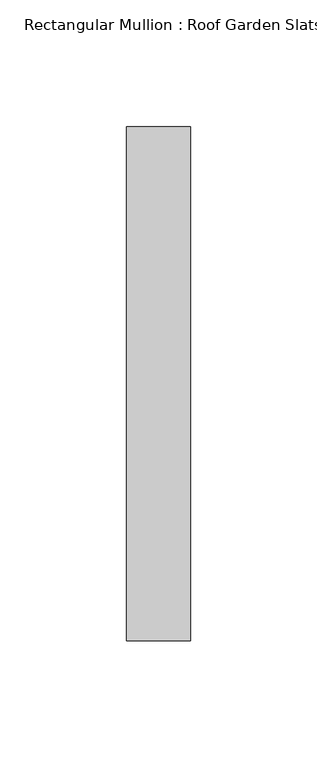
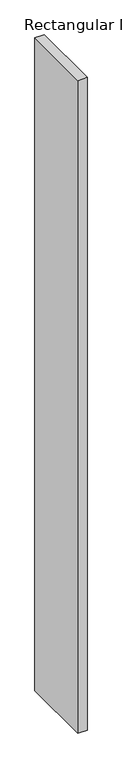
"""IFC4 building model written with IfcOpenShell, lengths in millimetres: member geometry, Rectangular Mullion : Roof Garden Slats."""

from ifc_helpers import new_model, si_unit, frame, origin, place, context, project, spatial, polyline, outline, extrude, source, transform, mapped, element, save


def rectangular_mullion_roof_garden_slats_03f27869(model_context):
    return source(origin(), model_context, "Body", "SweptSolid", [
        extrude(outline(polyline([(12.7, 139.7), (12.7, -63.5), (-12.7, -63.5), (-12.7, 139.7), (12.7, 139.7)])), frame((0.0, 0.0, -1889.0736012), z_axis=(0.0, 0.0, 1.0), x_axis=(1.0, 0.0, 0.0)), (0.0, 0.0, 1.0), 1889.0736012),
    ])


if __name__ == "__main__":
    model = new_model("IFC4")
    model_context = context("Model", 3, world=origin())
    ifc_project = project(units=[si_unit("LENGTHUNIT", "METRE", prefix="MILLI")], contexts=[model_context])
    site = spatial("IfcSite", under=ifc_project)
    building = spatial("IfcBuilding", under=site)
    placement = place(None, origin())
    rectangular_mullion_roof_garden_slats_shape = rectangular_mullion_roof_garden_slats_03f27869(model_context)
    element("IfcMember", 1, ObjectType="Rectangular Mullion : Roof Garden Slats", at=placement, inside=building, context=model_context, shape_type="MappedRepresentation", body=[
        mapped(rectangular_mullion_roof_garden_slats_shape, transform((0.0, 0.0, 0.0), x_axis=(1.0, 0.0, 0.0), y_axis=(0.0, 1.0, 0.0), z_axis=(0.0, 0.0, 1.0))),
    ])
    save(model, "model.ifc")
